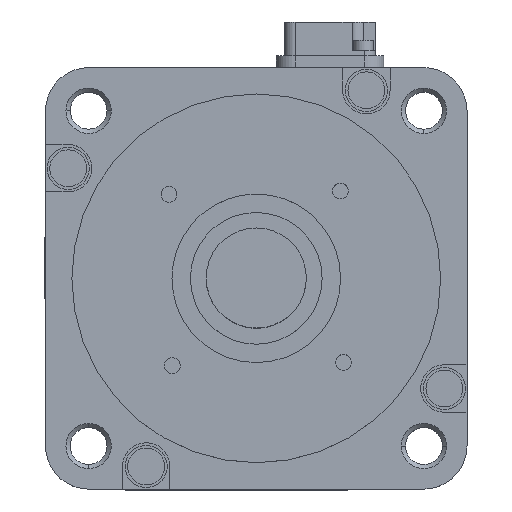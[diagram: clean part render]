
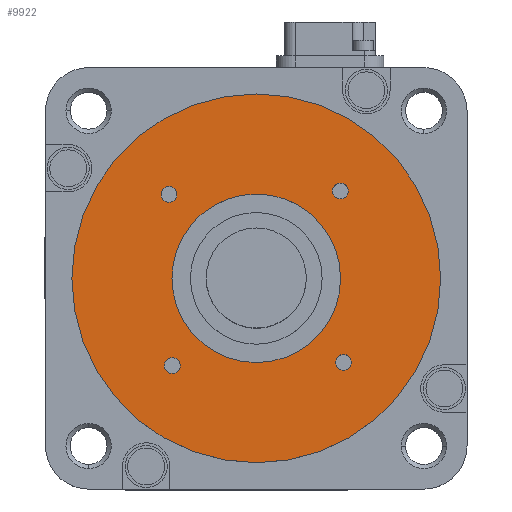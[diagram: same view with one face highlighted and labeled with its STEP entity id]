
A CAD part, top view. The second image highlights one B-rep face of the part: STEP entity #9922.
In plain terms, the highlighted planar face has unit normal (0, 0, 1).
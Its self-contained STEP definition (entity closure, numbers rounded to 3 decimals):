
#1646=CARTESIAN_POINT('',(0.,0.,100.));
#1647=DIRECTION('',(0.,0.,1.));
#1648=DIRECTION('',(1.,0.,0.));
#1649=AXIS2_PLACEMENT_3D('',#1646,#1647,#1648);
#1651=CARTESIAN_POINT('',(0.,0.,100.));
#1652=DIRECTION('',(0.,0.,1.));
#1653=DIRECTION('',(-1.,0.,0.));
#1654=AXIS2_PLACEMENT_3D('',#1651,#1652,#1653);
#1656=CARTESIAN_POINT('',(0.,0.,100.));
#1657=DIRECTION('',(0.,0.,-1.));
#1658=DIRECTION('',(1.,0.,0.));
#1659=AXIS2_PLACEMENT_3D('',#1656,#1657,#1658);
#1661=CARTESIAN_POINT('',(0.,0.,100.));
#1662=DIRECTION('',(0.,0.,-1.));
#1663=DIRECTION('',(-1.,0.,0.));
#1664=AXIS2_PLACEMENT_3D('',#1661,#1662,#1663);
#1666=CARTESIAN_POINT('',(15.951,16.57,100.));
#1667=DIRECTION('',(0.,0.,-1.));
#1668=DIRECTION('',(-1.,0.,0.));
#1669=AXIS2_PLACEMENT_3D('',#1666,#1667,#1668);
#1671=CARTESIAN_POINT('',(15.951,16.57,100.));
#1672=DIRECTION('',(0.,0.,-1.));
#1673=DIRECTION('',(1.,0.,0.));
#1674=AXIS2_PLACEMENT_3D('',#1671,#1672,#1673);
#1676=CARTESIAN_POINT('',(-16.57,15.951,100.));
#1677=DIRECTION('',(0.,0.,-1.));
#1678=DIRECTION('',(0.,-1.,0.));
#1679=AXIS2_PLACEMENT_3D('',#1676,#1677,#1678);
#1681=CARTESIAN_POINT('',(-16.57,15.951,100.));
#1682=DIRECTION('',(0.,0.,-1.));
#1683=DIRECTION('',(0.,1.,0.));
#1684=AXIS2_PLACEMENT_3D('',#1681,#1682,#1683);
#1686=CARTESIAN_POINT('',(-15.951,-16.57,100.));
#1687=DIRECTION('',(0.,0.,-1.));
#1688=DIRECTION('',(1.,0.,0.));
#1689=AXIS2_PLACEMENT_3D('',#1686,#1687,#1688);
#1691=CARTESIAN_POINT('',(-15.951,-16.57,100.));
#1692=DIRECTION('',(0.,0.,-1.));
#1693=DIRECTION('',(-1.,0.,0.));
#1694=AXIS2_PLACEMENT_3D('',#1691,#1692,#1693);
#1696=CARTESIAN_POINT('',(16.57,-15.951,100.));
#1697=DIRECTION('',(0.,0.,-1.));
#1698=DIRECTION('',(0.,1.,0.));
#1699=AXIS2_PLACEMENT_3D('',#1696,#1697,#1698);
#1701=CARTESIAN_POINT('',(16.57,-15.951,100.));
#1702=DIRECTION('',(0.,0.,-1.));
#1703=DIRECTION('',(0.,-1.,0.));
#1704=AXIS2_PLACEMENT_3D('',#1701,#1702,#1703);
#5181=CARTESIAN_POINT('',(-35.,0.,100.));
#5182=VERTEX_POINT('',#5181);
#5183=CARTESIAN_POINT('',(35.,0.,100.));
#5184=VERTEX_POINT('',#5183);
#5186=CARTESIAN_POINT('',(16.,0.,100.));
#5188=VERTEX_POINT('',#5186);
#5191=CARTESIAN_POINT('',(-16.,0.,100.));
#5192=VERTEX_POINT('',#5191);
#5210=CARTESIAN_POINT('',(14.451,16.57,100.));
#5212=VERTEX_POINT('',#5210);
#5215=CARTESIAN_POINT('',(17.451,16.57,100.));
#5216=VERTEX_POINT('',#5215);
#5218=CARTESIAN_POINT('',(-16.57,14.451,100.));
#5220=VERTEX_POINT('',#5218);
#5223=CARTESIAN_POINT('',(-16.57,17.451,100.));
#5224=VERTEX_POINT('',#5223);
#5226=CARTESIAN_POINT('',(-14.451,-16.57,100.));
#5228=VERTEX_POINT('',#5226);
#5231=CARTESIAN_POINT('',(-17.451,-16.57,100.));
#5232=VERTEX_POINT('',#5231);
#5234=CARTESIAN_POINT('',(16.57,-14.451,100.));
#5236=VERTEX_POINT('',#5234);
#5239=CARTESIAN_POINT('',(16.57,-17.451,100.));
#5240=VERTEX_POINT('',#5239);
#9882=CARTESIAN_POINT('',(0.,0.,100.));
#9883=DIRECTION('',(0.,0.,1.));
#9884=DIRECTION('',(-1.,0.,0.));
#9885=AXIS2_PLACEMENT_3D('',#9882,#9883,#9884);
#9886=PLANE('',#9885);
#9887=ORIENTED_EDGE('',*,*,#9860,.F.);
#9889=ORIENTED_EDGE('',*,*,#9888,.F.);
#9890=EDGE_LOOP('',(#9887,#9889));
#9891=FACE_OUTER_BOUND('',#9890,.F.);
#9893=ORIENTED_EDGE('',*,*,#9892,.F.);
#9895=ORIENTED_EDGE('',*,*,#9894,.F.);
#9896=EDGE_LOOP('',(#9893,#9895));
#9897=FACE_BOUND('',#9896,.F.);
#9899=ORIENTED_EDGE('',*,*,#9898,.F.);
#9901=ORIENTED_EDGE('',*,*,#9900,.F.);
#9902=EDGE_LOOP('',(#9899,#9901));
#9903=FACE_BOUND('',#9902,.F.);
#9905=ORIENTED_EDGE('',*,*,#9904,.F.);
#9907=ORIENTED_EDGE('',*,*,#9906,.F.);
#9908=EDGE_LOOP('',(#9905,#9907));
#9909=FACE_BOUND('',#9908,.F.);
#9911=ORIENTED_EDGE('',*,*,#9910,.F.);
#9913=ORIENTED_EDGE('',*,*,#9912,.F.);
#9914=EDGE_LOOP('',(#9911,#9913));
#9915=FACE_BOUND('',#9914,.F.);
#9917=ORIENTED_EDGE('',*,*,#9916,.F.);
#9919=ORIENTED_EDGE('',*,*,#9918,.F.);
#9920=EDGE_LOOP('',(#9917,#9919));
#9921=FACE_BOUND('',#9920,.F.);
#9922=ADVANCED_FACE('',(#9891,#9897,#9903,#9909,#9915,#9921),#9886,.T.);
#1650=CIRCLE('',#1649,35.);
#1655=CIRCLE('',#1654,35.);
#1660=CIRCLE('',#1659,16.);
#1665=CIRCLE('',#1664,16.);
#1670=CIRCLE('',#1669,1.5);
#1675=CIRCLE('',#1674,1.5);
#1680=CIRCLE('',#1679,1.5);
#1685=CIRCLE('',#1684,1.5);
#1690=CIRCLE('',#1689,1.5);
#1695=CIRCLE('',#1694,1.5);
#1700=CIRCLE('',#1699,1.5);
#1705=CIRCLE('',#1704,1.5);
#9860=EDGE_CURVE('',#5184,#5182,#1650,.T.);
#9888=EDGE_CURVE('',#5182,#5184,#1655,.T.);
#9892=EDGE_CURVE('',#5188,#5192,#1660,.T.);
#9894=EDGE_CURVE('',#5192,#5188,#1665,.T.);
#9898=EDGE_CURVE('',#5212,#5216,#1670,.T.);
#9900=EDGE_CURVE('',#5216,#5212,#1675,.T.);
#9904=EDGE_CURVE('',#5220,#5224,#1680,.T.);
#9906=EDGE_CURVE('',#5224,#5220,#1685,.T.);
#9910=EDGE_CURVE('',#5228,#5232,#1690,.T.);
#9912=EDGE_CURVE('',#5232,#5228,#1695,.T.);
#9916=EDGE_CURVE('',#5236,#5240,#1700,.T.);
#9918=EDGE_CURVE('',#5240,#5236,#1705,.T.);
